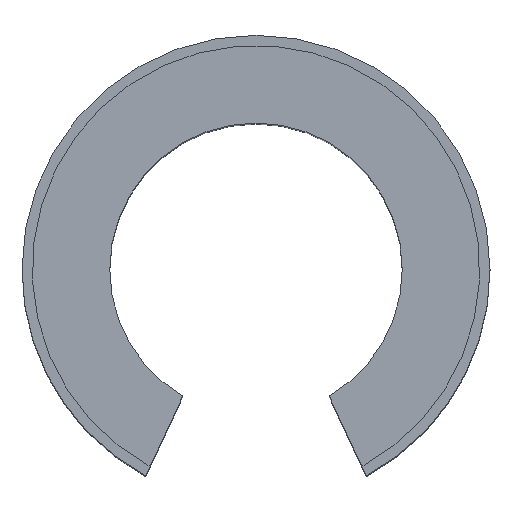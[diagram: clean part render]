
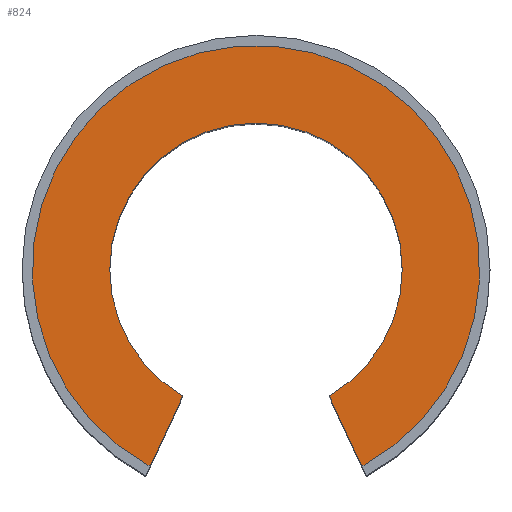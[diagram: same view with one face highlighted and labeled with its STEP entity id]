
A CAD part, top view. The second image highlights one B-rep face of the part: STEP entity #824.
In plain terms, the highlighted planar face has unit normal (0, 0, 1).
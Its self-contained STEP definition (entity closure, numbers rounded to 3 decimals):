
#51=CARTESIAN_POINT('',(25.0,0.,100.0));
#52=VERTEX_POINT('',#51);
#68=CARTESIAN_POINT('',(12.5,-21.651,100.0));
#69=VERTEX_POINT('',#68);
#76=CARTESIAN_POINT('',(0.0,0.0,100.0));
#77=DIRECTION('',(0.0,0.0,-1.0));
#78=DIRECTION('',(-1.0,0.0,0.0));
#79=AXIS2_PLACEMENT_3D('',#76,#77,#78);
#80=CIRCLE('',#79,25.0);
#81=EDGE_CURVE('',#52,#69,#80,.T.);
#91=CARTESIAN_POINT('',(-25.0,0.,100.0));
#92=VERTEX_POINT('',#91);
#101=CARTESIAN_POINT('',(-12.5,-21.651,100.0));
#102=VERTEX_POINT('',#101);
#103=CARTESIAN_POINT('',(0.0,0.0,100.0));
#104=DIRECTION('',(0.0,0.0,-1.0));
#105=DIRECTION('',(-1.0,0.0,0.0));
#106=AXIS2_PLACEMENT_3D('',#103,#104,#105);
#107=CIRCLE('',#106,25.0);
#108=EDGE_CURVE('',#102,#92,#107,.T.);
#469=CARTESIAN_POINT('',(-18.114,-33.689,100.0));
#470=VERTEX_POINT('',#469);
#539=CARTESIAN_POINT('',(-18.114,-33.689,100.0));
#540=DIRECTION('',(0.423,0.906,0.0));
#541=VECTOR('',#540,13.283);
#542=LINE('',#539,#541);
#543=EDGE_CURVE('',#470,#102,#542,.T.);
#553=CARTESIAN_POINT('',(18.114,-33.689,100.0));
#554=VERTEX_POINT('',#553);
#561=CARTESIAN_POINT('',(12.5,-21.651,100.0));
#562=DIRECTION('',(0.423,-0.906,0.0));
#563=VECTOR('',#562,13.283);
#564=LINE('',#561,#563);
#565=EDGE_CURVE('',#69,#554,#564,.T.);
#799=CARTESIAN_POINT('',(0.0,0.0,100.0));
#800=DIRECTION('',(0.0,0.0,-1.0));
#801=DIRECTION('',(-1.0,0.0,0.0));
#802=AXIS2_PLACEMENT_3D('',#799,#800,#801);
#803=PLANE('',#802);
#804=ORIENTED_EDGE('',*,*,#565,.T.);
#805=CARTESIAN_POINT('',(0.0,0.0,100.0));
#806=DIRECTION('',(0.0,0.0,-1.0));
#807=DIRECTION('',(1.0,0.0,0.0));
#808=AXIS2_PLACEMENT_3D('',#805,#806,#807);
#809=CIRCLE('',#808,38.25);
#810=EDGE_CURVE('',#470,#554,#809,.T.);
#811=ORIENTED_EDGE('',*,*,#810,.F.);
#812=ORIENTED_EDGE('',*,*,#543,.T.);
#813=ORIENTED_EDGE('',*,*,#108,.T.);
#814=CARTESIAN_POINT('',(0.0,0.0,100.0));
#815=DIRECTION('',(0.0,0.0,-1.0));
#816=DIRECTION('',(-1.0,0.0,0.0));
#817=AXIS2_PLACEMENT_3D('',#814,#815,#816);
#818=CIRCLE('',#817,25.0);
#819=EDGE_CURVE('',#92,#52,#818,.T.);
#820=ORIENTED_EDGE('',*,*,#819,.T.);
#821=ORIENTED_EDGE('',*,*,#81,.T.);
#822=EDGE_LOOP('',(#804,#811,#812,#813,#820,#821));
#823=FACE_OUTER_BOUND('',#822,.T.);
#824=ADVANCED_FACE('',(#823),#803,.F.);
